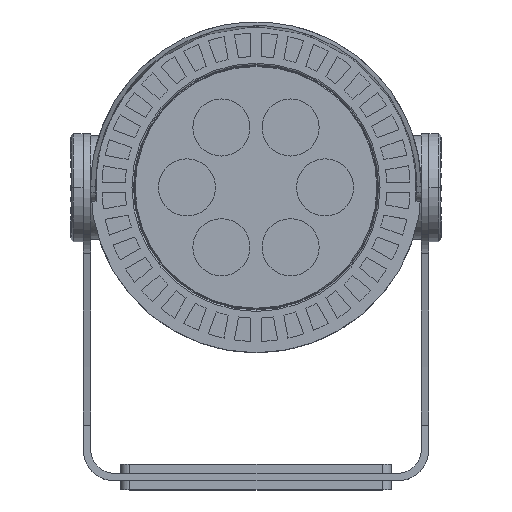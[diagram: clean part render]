
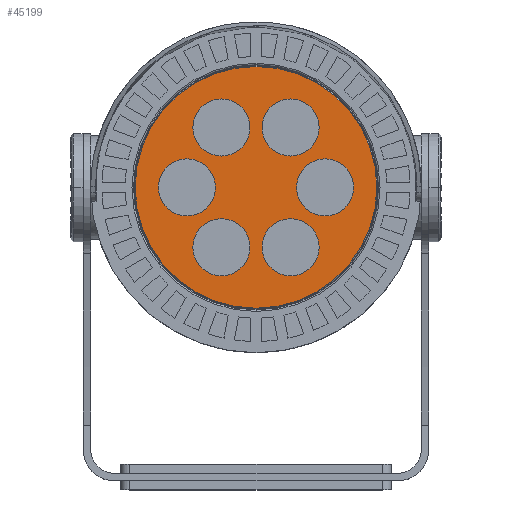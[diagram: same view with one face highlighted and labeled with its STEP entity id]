
A CAD part, top view. The second image highlights one B-rep face of the part: STEP entity #45199.
In plain terms, the highlighted planar face has unit normal (0, 0, 1).
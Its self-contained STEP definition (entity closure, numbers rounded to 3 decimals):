
#423 = EDGE_CURVE ( 'NONE', #115012, #115012, #117344, .T. ) ;
#747 = EDGE_CURVE ( 'NONE', #112591, #112591, #66234, .T. ) ;
#5432 = VERTEX_POINT ( 'NONE', #47714 ) ;
#5619 = EDGE_CURVE ( 'NONE', #5432, #49880, #11316, .T. ) ;
#5829 = CARTESIAN_POINT ( 'NONE',  ( -11.5, 77.581, 51. ) ) ;
#6668 = DIRECTION ( 'NONE',  ( -0.5, 0.866, 0. ) ) ;
#8579 = DIRECTION ( 'NONE',  ( 0., 0., 1. ) ) ;
#11316 = CIRCLE ( 'NONE', #94143, 40.2 ) ;
#11960 = VERTEX_POINT ( 'NONE', #117452 ) ;
#12559 = CARTESIAN_POINT ( 'NONE',  ( -16.25, 125.646, 51. ) ) ;
#13782 = VERTEX_POINT ( 'NONE', #50835 ) ;
#22133 = DIRECTION ( 'NONE',  ( -1., 0., 0. ) ) ;
#22497 = FACE_BOUND ( 'NONE', #62237, .T. ) ;
#22721 = EDGE_LOOP ( 'NONE', ( #100714 ) ) ;
#23339 = AXIS2_PLACEMENT_3D ( 'NONE', #58547, #40626, #96794 ) ;
#27091 = CARTESIAN_POINT ( 'NONE',  ( 23., 97.5, 51. ) ) ;
#27403 = DIRECTION ( 'NONE',  ( -1., 0., 0. ) ) ;
#27505 = DIRECTION ( 'NONE',  ( 0., 0., 1. ) ) ;
#28046 = CARTESIAN_POINT ( 'NONE',  ( -16.25, 69.354, 51. ) ) ;
#28785 = AXIS2_PLACEMENT_3D ( 'NONE', #5829, #92178, #82914 ) ;
#29329 = AXIS2_PLACEMENT_3D ( 'NONE', #53580, #43681, #6668 ) ;
#29921 = CIRCLE ( 'NONE', #98876, 9.5 ) ;
#30960 = AXIS2_PLACEMENT_3D ( 'NONE', #47152, #46538, #27403 ) ;
#31019 = CARTESIAN_POINT ( 'NONE',  ( 0., 97.5, 51. ) ) ;
#31144 = CARTESIAN_POINT ( 'NONE',  ( 0., 97.5, 51. ) ) ;
#31721 = AXIS2_PLACEMENT_3D ( 'NONE', #117134, #104859, #22133 ) ;
#31747 = FACE_BOUND ( 'NONE', #84490, .T. ) ;
#32896 = VERTEX_POINT ( 'NONE', #12559 ) ;
#38562 = DIRECTION ( 'NONE',  ( -1., 0., 0. ) ) ;
#39096 = CIRCLE ( 'NONE', #23339, 9.5 ) ;
#39782 = DIRECTION ( 'NONE',  ( 0., 0., -1. ) ) ;
#40626 = DIRECTION ( 'NONE',  ( 0., 0., 1. ) ) ;
#41006 = FACE_BOUND ( 'NONE', #22721, .T. ) ;
#43681 = DIRECTION ( 'NONE',  ( 0., 0., 1. ) ) ;
#45199 = ADVANCED_FACE ( 'NONE', ( #31747, #22497, #113852, #87887, #41006, #48443, #58940 ), #47831, .F. ) ;
#45554 = CIRCLE ( 'NONE', #31721, 9.5 ) ;
#45723 = ORIENTED_EDGE ( 'NONE', *, *, #98471, .F. ) ;
#45893 = EDGE_LOOP ( 'NONE', ( #95996, #103407 ) ) ;
#46538 = DIRECTION ( 'NONE',  ( 0., 0., -1. ) ) ;
#47152 = CARTESIAN_POINT ( 'NONE',  ( 0., 97.5, 51. ) ) ;
#47714 = CARTESIAN_POINT ( 'NONE',  ( 40.2, 97.5, 51. ) ) ;
#47831 = PLANE ( 'NONE',  #76367 ) ;
#48443 = FACE_BOUND ( 'NONE', #107844, .T. ) ;
#49614 = VERTEX_POINT ( 'NONE', #88448 ) ;
#49880 = VERTEX_POINT ( 'NONE', #63607 ) ;
#50835 = CARTESIAN_POINT ( 'NONE',  ( -32.5, 97.5, 51. ) ) ;
#53580 = CARTESIAN_POINT ( 'NONE',  ( -11.5, 117.419, 51. ) ) ;
#54907 = DIRECTION ( 'NONE',  ( 1., 0., 0. ) ) ;
#55852 = CARTESIAN_POINT ( 'NONE',  ( 16.25, 69.354, 51. ) ) ;
#56519 = CARTESIAN_POINT ( 'NONE',  ( 11.5, 77.581, 51. ) ) ;
#57605 = EDGE_LOOP ( 'NONE', ( #64231 ) ) ;
#58547 = CARTESIAN_POINT ( 'NONE',  ( 11.5, 117.419, 51. ) ) ;
#58940 = FACE_OUTER_BOUND ( 'NONE', #45893, .T. ) ;
#60202 = AXIS2_PLACEMENT_3D ( 'NONE', #56519, #27505, #94147 ) ;
#62237 = EDGE_LOOP ( 'NONE', ( #45723 ) ) ;
#62614 = ORIENTED_EDGE ( 'NONE', *, *, #105574, .F. ) ;
#63607 = CARTESIAN_POINT ( 'NONE',  ( -40.2, 97.5, 51. ) ) ;
#64231 = ORIENTED_EDGE ( 'NONE', *, *, #83086, .F. ) ;
#66234 = CIRCLE ( 'NONE', #28785, 9.5 ) ;
#69264 = DIRECTION ( 'NONE',  ( 0., 0., -1. ) ) ;
#70710 = CIRCLE ( 'NONE', #29329, 9.5 ) ;
#72105 = EDGE_CURVE ( 'NONE', #49880, #5432, #105846, .T. ) ;
#76367 = AXIS2_PLACEMENT_3D ( 'NONE', #31144, #39782, #38562 ) ;
#77294 = DIRECTION ( 'NONE',  ( 1., 0., 0. ) ) ;
#77859 = EDGE_LOOP ( 'NONE', ( #88733 ) ) ;
#82914 = DIRECTION ( 'NONE',  ( -0.5, -0.866, 0. ) ) ;
#83086 = EDGE_CURVE ( 'NONE', #13782, #13782, #45554, .T. ) ;
#84352 = ORIENTED_EDGE ( 'NONE', *, *, #97428, .F. ) ;
#84490 = EDGE_LOOP ( 'NONE', ( #84352 ) ) ;
#87887 = FACE_BOUND ( 'NONE', #77859, .T. ) ;
#88448 = CARTESIAN_POINT ( 'NONE',  ( 32.5, 97.5, 51. ) ) ;
#88733 = ORIENTED_EDGE ( 'NONE', *, *, #747, .F. ) ;
#92178 = DIRECTION ( 'NONE',  ( 0., 0., 1. ) ) ;
#94143 = AXIS2_PLACEMENT_3D ( 'NONE', #31019, #69264, #77294 ) ;
#94147 = DIRECTION ( 'NONE',  ( 0.5, -0.866, 0. ) ) ;
#95996 = ORIENTED_EDGE ( 'NONE', *, *, #5619, .F. ) ;
#96794 = DIRECTION ( 'NONE',  ( 0.5, 0.866, 0. ) ) ;
#97428 = EDGE_CURVE ( 'NONE', #11960, #11960, #39096, .T. ) ;
#98471 = EDGE_CURVE ( 'NONE', #32896, #32896, #70710, .T. ) ;
#98876 = AXIS2_PLACEMENT_3D ( 'NONE', #27091, #8579, #54907 ) ;
#100714 = ORIENTED_EDGE ( 'NONE', *, *, #423, .F. ) ;
#103407 = ORIENTED_EDGE ( 'NONE', *, *, #72105, .F. ) ;
#104859 = DIRECTION ( 'NONE',  ( 0., 0., 1. ) ) ;
#105574 = EDGE_CURVE ( 'NONE', #49614, #49614, #29921, .T. ) ;
#105846 = CIRCLE ( 'NONE', #30960, 40.2 ) ;
#107844 = EDGE_LOOP ( 'NONE', ( #62614 ) ) ;
#112591 = VERTEX_POINT ( 'NONE', #28046 ) ;
#113852 = FACE_BOUND ( 'NONE', #57605, .T. ) ;
#115012 = VERTEX_POINT ( 'NONE', #55852 ) ;
#117134 = CARTESIAN_POINT ( 'NONE',  ( -23., 97.5, 51. ) ) ;
#117344 = CIRCLE ( 'NONE', #60202, 9.5 ) ;
#117452 = CARTESIAN_POINT ( 'NONE',  ( 16.25, 125.646, 51. ) ) ;
